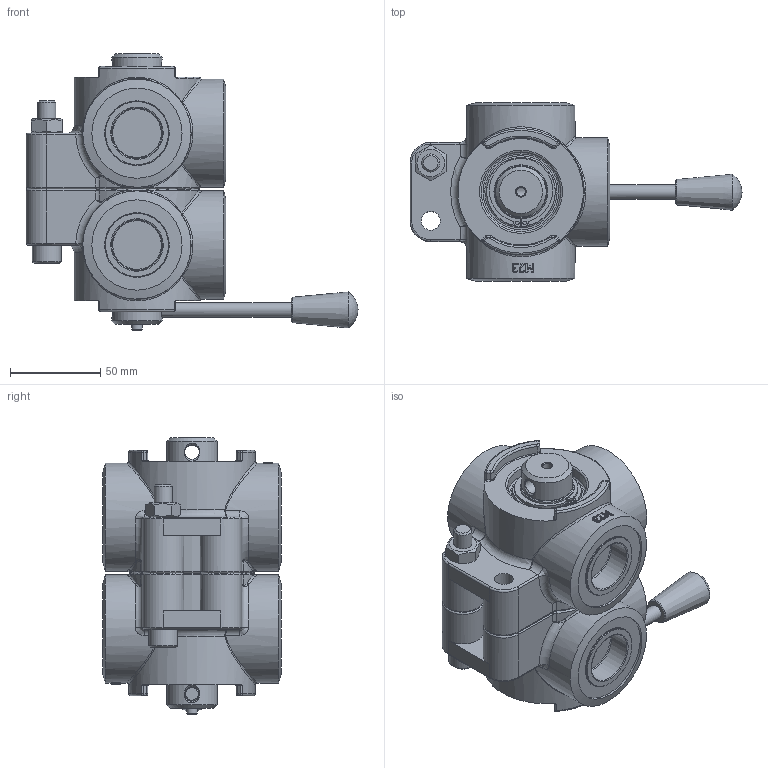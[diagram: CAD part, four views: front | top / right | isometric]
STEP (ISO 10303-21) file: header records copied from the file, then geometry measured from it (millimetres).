
FILE_DESCRIPTION((''),'2;1');
FILE_NAME('G:\HV_HYDRAULIC\AZIENDA_HV_HYDRAULIC\ARCHIVIO_DISEGNI\5_PRODOTTI_FINITI\2_DEVIATORI_INVERTITORI\7003_D6\7003.0203_D6_1_5-16_12_UNF_ca_(HV)\7003.0203.stp','2024-09-03T12:21:56',('christian.scardovi'),(''),'Autodesk Inventor 2013','Autodesk Inventor 2013','');
FILE_SCHEMA(('AUTOMOTIVE_DESIGN { 1 0 10303 214 1 1 1 1 }'));
Length unit declared in the file: millimetre
Products named in the file (1): 7003.0203
Bounding box: 184 x 98.66 x 153.25 mm (x, y, z)
Volume: 719952.3 mm3; surface area: 132062.4 mm2
Topology: 7 solids, 7 shells, 674 faces, 1597 edges, 964 vertices
Faces by surface type: plane 198, cylinder 190, bspline 120, torus 107, cone 42, sphere 17
Full cylindrical faces by diameter (mm): 2 x4, 4.917 x1, 6 x1, 8 x3, 10 x1, 10.5 x1, 16 x1, 28 x8, 28.6 x2, 29.9 x2, 31 x6, 31.039 x6, 35 x6, 38 x2, 44 x2, 50 x6, 60 x6
Entity records: 22188 total; most frequent: CARTESIAN_POINT 7481, DIRECTION 2782, ORIENTED_EDGE 2782, EDGE_CURVE 1391, AXIS2_PLACEMENT_3D 1176, VERTEX_POINT 917, EDGE_LOOP 874, FACE_OUTER_BOUND 674
